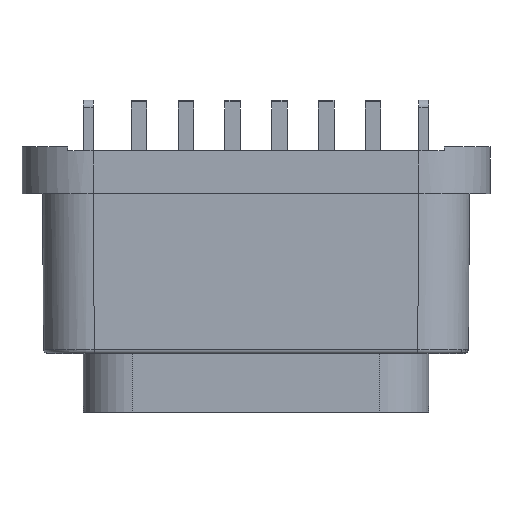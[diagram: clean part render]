
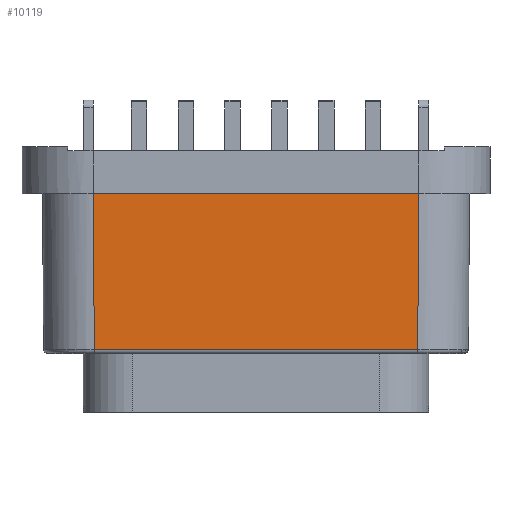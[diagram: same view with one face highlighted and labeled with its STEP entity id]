
A CAD part, front view. The second image highlights one B-rep face of the part: STEP entity #10119.
In plain terms, the highlighted planar face has unit normal (0, -1, -0.007) as drawn and (0, -0.007, 1) by its records, which use the part's own axes.
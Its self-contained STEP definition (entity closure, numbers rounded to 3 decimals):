
#6705=DIRECTION('',(-1.,0.,0.));
#6706=VECTOR('',#6705,8.35);
#6707=CARTESIAN_POINT('',(-32.937,0.,
28.196));
#6708=LINE('',#6707,#6706);
#7687=DIRECTION('',(1.,0.,0.));
#7688=VECTOR('',#7687,8.292);
#7689=CARTESIAN_POINT('',(-41.258,-4.001,
28.167));
#7690=LINE('',#7689,#7688);
#7771=CARTESIAN_POINT('',(-32.937,0.,28.196));
#7781=DIRECTION('',(-0.007,1.,0.007));
#7782=VECTOR('',#7781,4.001);
#7783=CARTESIAN_POINT('',(-41.258,-4.001,
28.167));
#7784=LINE('',#7783,#7782);
#7785=DIRECTION('',(-0.007,-1.,-0.007));
#7786=VECTOR('',#7785,4.001);
#7787=CARTESIAN_POINT('',(-32.937,0.,
28.196));
#7788=LINE('',#7787,#7786);
#8203=VERTEX_POINT('',#7771);
#8204=CARTESIAN_POINT('',(-41.287,0.,
28.196));
#8205=VERTEX_POINT('',#8204);
#8367=CARTESIAN_POINT('',(-32.967,-4.001,
28.167));
#8368=VERTEX_POINT('',#8367);
#8371=CARTESIAN_POINT('',(-41.258,-4.001,
28.167));
#8372=VERTEX_POINT('',#8371);
#10107=CARTESIAN_POINT('',(-37.112,-2.05,28.181));
#10108=DIRECTION('',(0.,-0.007,1.));
#10109=DIRECTION('',(0.,1.,0.007));
#10110=AXIS2_PLACEMENT_3D('',#10107,#10108,#10109);
#10111=PLANE('',#10110);
#10112=ORIENTED_EDGE('',*,*,#9984,.F.);
#10114=ORIENTED_EDGE('',*,*,#10113,.T.);
#10115=ORIENTED_EDGE('',*,*,#8637,.F.);
#10116=ORIENTED_EDGE('',*,*,#10100,.T.);
#10117=EDGE_LOOP('',(#10112,#10114,#10115,#10116));
#10118=FACE_OUTER_BOUND('',#10117,.F.);
#10119=ADVANCED_FACE('',(#10118),#10111,.T.);
#8637=EDGE_CURVE('',#8203,#8205,#6708,.T.);
#9984=EDGE_CURVE('',#8372,#8368,#7690,.T.);
#10100=EDGE_CURVE('',#8203,#8368,#7788,.T.);
#10113=EDGE_CURVE('',#8372,#8205,#7784,.T.);
